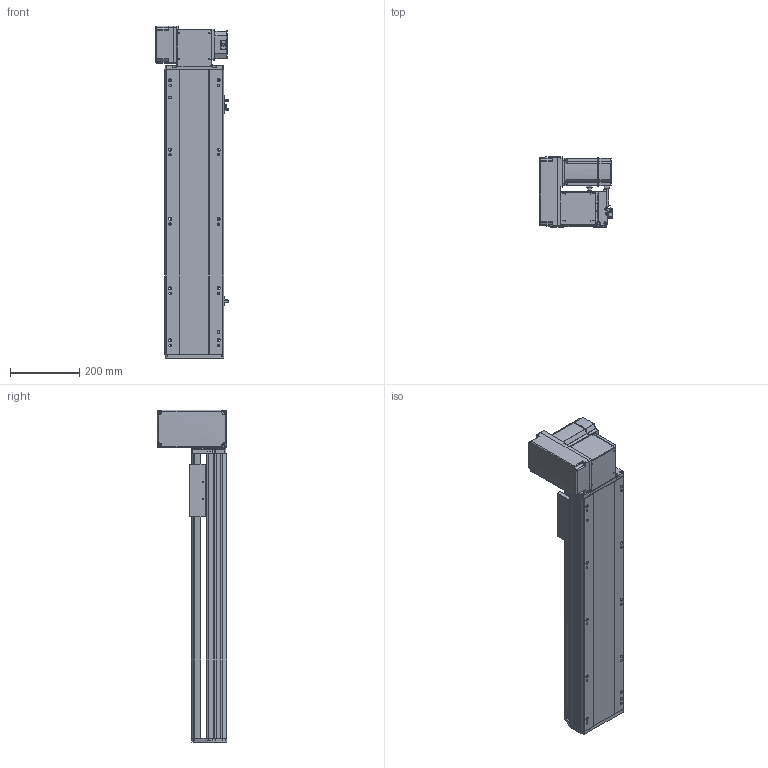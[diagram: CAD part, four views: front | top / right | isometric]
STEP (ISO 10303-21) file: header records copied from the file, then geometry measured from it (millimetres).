
FILE_DESCRIPTION (( 'STEP AP214' ), '1' );
FILE_NAME ('RTB17S-XX-550-LW-M75-C4.STEP', '2025-12-12T01:01:24', ( '' ), ( '' ), 'SwSTEP 2.0', 'SolidWorks 2018', '' );
FILE_SCHEMA (( 'AUTOMOTIVE_DESIGN' ));
Length unit declared in the file: millimetre
Products named in the file (15): RTB17S-LW-々湍釱蚾饜-750W^RTB17S-XX-XX-LW-M75-C4; RTB22S-GY-008-M75--萇儂啣^RTB17S-LW-々湍釱蚾饜-750W_RTB17S-XX-XX-LW-M75-C4; RTB17S-賑釱^RTB17S-XX-XX-LW-M75-C4; 750W萇儂^RTB17S-XX-XX-LW-M75-C4; RTH13-BL-012覜茼え俋离^RTB17S-賑釱_RTB17S-XX-XX-LW-M75-C4; RTB17S-L-001-耜醱啣^RTB17S-XX-XX-LW-M75-C4; RTB17S-L-014-T20-P75--々湍釱^RTB17S-LW-々湍釱蚾饜-750W_RTB17S-XX-XX-LW-M75-C4; RTB17S-XX-550-LW-M75-C4; RTB22S-GY-017P^RTB17S-LW-々湍釱蚾饜-750W_RTB17S-XX-XX-LW-M75-C4; EE672^RTB17S-XX-XX-LW-M75-C4; RTB22S-GY-005P^RTB17S-LW-々湍釱蚾饜-750W_RTB17S-XX-XX-LW-M75-C4; RTB17S-L-004-賑釱^RTB17S-賑釱_RTB17S-XX-XX-LW-M75-C4; RTB22S-GY-018P^RTB17S-LW-々湍釱蚾饜-750W_RTB17S-XX-XX-LW-M75-C4; RTB17-R-011菁釱^RTB17S-XX-XX-LW-M75-C4; RTB17S-L-007奻裔^RTB17S-XX-XX-LW-M75-C4
Assembly tree (17 placements, depth 3):
  RTB17S-XX-550-LW-M75-C4
    RTB17-R-011菁釱^RTB17S-XX-XX-LW-M75-C4
    EE672^RTB17S-XX-XX-LW-M75-C4  x3
    RTB17S-L-001-耜醱啣^RTB17S-XX-XX-LW-M75-C4
    RTB17S-賑釱^RTB17S-XX-XX-LW-M75-C4
      RTB17S-L-004-賑釱^RTB17S-賑釱_RTB17S-XX-XX-LW-M75-C4
      RTH13-BL-012覜茼え俋离^RTB17S-賑釱_RTB17S-XX-XX-LW-M75-C4
    RTB17S-L-007奻裔^RTB17S-XX-XX-LW-M75-C4
    750W萇儂^RTB17S-XX-XX-LW-M75-C4
    RTB17S-LW-々湍釱蚾饜-750W^RTB17S-XX-XX-LW-M75-C4
      RTB17S-L-014-T20-P75--々湍釱^RTB17S-LW-々湍釱蚾饜-750W_RTB17S-XX-XX-LW-M75-C4
      RTB22S-GY-005P^RTB17S-LW-々湍釱蚾饜-750W_RTB17S-XX-XX-LW-M75-C4
      RTB22S-GY-017P^RTB17S-LW-々湍釱蚾饜-750W_RTB17S-XX-XX-LW-M75-C4  x2
      RTB22S-GY-008-M75--萇儂啣^RTB17S-LW-々湍釱蚾饜-750W_RTB17S-XX-XX-LW-M75-C4
      RTB22S-GY-018P^RTB17S-LW-々湍釱蚾饜-750W_RTB17S-XX-XX-LW-M75-C4
Bounding box: 210.4 x 201.5 x 957.5 mm (x, y, z)
Volume: 9388117.6 mm3; surface area: 1518170.9 mm2
Topology: 17 solids, 17 shells, 2057 faces, 5674 edges, 3662 vertices
Faces by surface type: plane 966, cylinder 675, bspline 294, cone 110, sphere 8, torus 4
Entity records: 56566 total; most frequent: CARTESIAN_POINT 16538, ORIENTED_EDGE 8192, DIRECTION 7682, EDGE_CURVE 4096, AXIS2_PLACEMENT_3D 2682, VERTEX_POINT 2666, VECTOR 2318, LINE 2318
